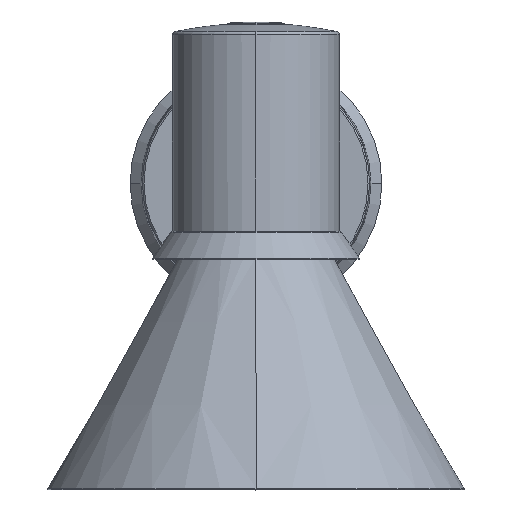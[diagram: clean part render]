
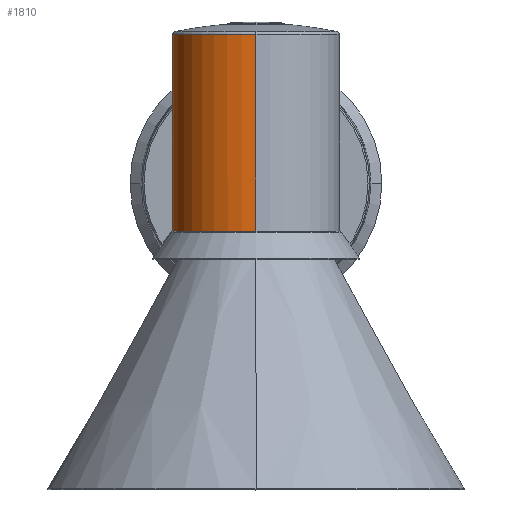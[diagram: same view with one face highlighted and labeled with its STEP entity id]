
A CAD part, top view. The second image highlights one B-rep face of the part: STEP entity #1810.
In plain terms, the highlighted cylindrical face has radius 29 mm (diameter 58 mm), a partial arc.
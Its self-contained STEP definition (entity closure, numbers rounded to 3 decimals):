
#9 = ORIENTED_EDGE ( 'NONE', *, *, #6592, .T. ) ;
#71 = EDGE_CURVE ( 'NONE', #1885, #641, #5169, .T. ) ;
#423 = CARTESIAN_POINT ( 'NONE',  ( 0., 55.3, 193.1 ) ) ;
#479 = EDGE_CURVE ( 'NONE', #8426, #1885, #6472, .T. ) ;
#549 = CARTESIAN_POINT ( 'NONE',  ( -2.544, 17.15, 164.184 ) ) ;
#641 = VERTEX_POINT ( 'NONE', #3812 ) ;
#846 = CARTESIAN_POINT ( 'NONE',  ( -3.8, 17.15, 164.35 ) ) ;
#1092 = CARTESIAN_POINT ( 'NONE',  ( 0., 51.332, 193.1 ) ) ;
#1135 = LINE ( 'NONE', #3449, #2454 ) ;
#1184 = CARTESIAN_POINT ( 'NONE',  ( -1.272, 17.15, 164.1 ) ) ;
#1316 = B_SPLINE_CURVE_WITH_KNOTS ( 'NONE', 3,
 ( #3934, #549, #1184, #7600 ),
 .UNSPECIFIED., .F., .F.,
 ( 4, 4 ),
 ( 0., 0.5 ),
 .UNSPECIFIED. ) ;
#1413 = CARTESIAN_POINT ( 'NONE',  ( -10.15, -17., 165.934 ) ) ;
#1439 = AXIS2_PLACEMENT_3D ( 'NONE', #8277, #8886, #1831 ) ;
#1539 = CARTESIAN_POINT ( 'NONE',  ( -5.792, 17.15, 164.613 ) ) ;
#1621 = ORIENTED_EDGE ( 'NONE', *, *, #3433, .T. ) ;
#1727 = CARTESIAN_POINT ( 'NONE',  ( -7.756, 17.15, 165.084 ) ) ;
#1733 = CARTESIAN_POINT ( 'NONE',  ( -10.15, 16.65, 165.934 ) ) ;
#1748 = DIRECTION ( 'NONE',  ( 0., -1., 0. ) ) ;
#1810 = ADVANCED_FACE ( 'NONE', ( #8705 ), #5247, .T. ) ;
#1825 =( BOUNDED_CURVE ( )  B_SPLINE_CURVE ( 3, ( #6911, #2824, #3464, #9148 ),
 .UNSPECIFIED., .F., .F. ) 
 B_SPLINE_CURVE_WITH_KNOTS ( ( 4, 4 ),
 ( 1.91, 1.928 ),
 .UNSPECIFIED. ) 
 CURVE ( )  GEOMETRIC_REPRESENTATION_ITEM ( )  RATIONAL_B_SPLINE_CURVE ( ( 1., 1., 1., 1. ) ) 
 REPRESENTATION_ITEM ( '' )  );
#1831 = DIRECTION ( 'NONE',  ( 0., 0., -1. ) ) ;
#1885 = VERTEX_POINT ( 'NONE', #1413 ) ;
#2054 = EDGE_CURVE ( 'NONE', #2499, #6197, #3568, .T. ) ;
#2454 = VECTOR ( 'NONE', #6327, 1000. ) ;
#2499 = VERTEX_POINT ( 'NONE', #4657 ) ;
#2824 = CARTESIAN_POINT ( 'NONE',  ( -9.817, 16.983, 165.812 ) ) ;
#3433 = EDGE_CURVE ( 'NONE', #5382, #4263, #7924, .T. ) ;
#3449 = CARTESIAN_POINT ( 'NONE',  ( 0., 55.3, 164.1 ) ) ;
#3464 = CARTESIAN_POINT ( 'NONE',  ( -9.984, 16.816, 165.872 ) ) ;
#3568 = CIRCLE ( 'NONE', #7529, 29. ) ;
#3611 = ORIENTED_EDGE ( 'NONE', *, *, #6005, .F. ) ;
#3767 = CARTESIAN_POINT ( 'NONE',  ( 0., 51.332, 164.1 ) ) ;
#3779 = DIRECTION ( 'NONE',  ( 0., 0., 1. ) ) ;
#3812 = CARTESIAN_POINT ( 'NONE',  ( 0., -17., 222.1 ) ) ;
#3934 = CARTESIAN_POINT ( 'NONE',  ( -3.8, 17.15, 164.35 ) ) ;
#4215 = ORIENTED_EDGE ( 'NONE', *, *, #71, .T. ) ;
#4263 = VERTEX_POINT ( 'NONE', #5303 ) ;
#4419 = ORIENTED_EDGE ( 'NONE', *, *, #2054, .T. ) ;
#4657 = CARTESIAN_POINT ( 'NONE',  ( 0., 51.332, 222.1 ) ) ;
#4793 = EDGE_CURVE ( 'NONE', #8991, #6197, #1135, .T. ) ;
#4886 = EDGE_CURVE ( 'NONE', #641, #2499, #8122, .T. ) ;
#4954 = ORIENTED_EDGE ( 'NONE', *, *, #479, .T. ) ;
#4961 = ORIENTED_EDGE ( 'NONE', *, *, #4793, .F. ) ;
#5169 = CIRCLE ( 'NONE', #1439, 29. ) ;
#5205 = CARTESIAN_POINT ( 'NONE',  ( -9.65, 17.15, 165.753 ) ) ;
#5247 = CYLINDRICAL_SURFACE ( 'NONE', #7036, 29. ) ;
#5303 = CARTESIAN_POINT ( 'NONE',  ( -9.65, 17.15, 165.753 ) ) ;
#5382 = VERTEX_POINT ( 'NONE', #7656 ) ;
#5671 = CARTESIAN_POINT ( 'NONE',  ( 0., 55.3, 222.1 ) ) ;
#5700 = DIRECTION ( 'NONE',  ( 0., 1., 0. ) ) ;
#6005 = EDGE_CURVE ( 'NONE', #5382, #8991, #1316, .T. ) ;
#6197 = VERTEX_POINT ( 'NONE', #3767 ) ;
#6327 = DIRECTION ( 'NONE',  ( 0., 1., 0. ) ) ;
#6472 = LINE ( 'NONE', #6509, #7839 ) ;
#6509 = CARTESIAN_POINT ( 'NONE',  ( -10.15, 55.3, 165.934 ) ) ;
#6592 = EDGE_CURVE ( 'NONE', #4263, #8426, #1825, .T. ) ;
#6911 = CARTESIAN_POINT ( 'NONE',  ( -9.65, 17.15, 165.753 ) ) ;
#7036 = AXIS2_PLACEMENT_3D ( 'NONE', #423, #8202, #8877 ) ;
#7117 = EDGE_LOOP ( 'NONE', ( #4215, #7697, #4419, #4961, #3611, #1621, #9, #4954 ) ) ;
#7529 = AXIS2_PLACEMENT_3D ( 'NONE', #1092, #1748, #3779 ) ;
#7600 = CARTESIAN_POINT ( 'NONE',  ( 0., 17.15, 164.1 ) ) ;
#7656 = CARTESIAN_POINT ( 'NONE',  ( -3.8, 17.15, 164.35 ) ) ;
#7697 = ORIENTED_EDGE ( 'NONE', *, *, #4886, .T. ) ;
#7839 = VECTOR ( 'NONE', #8682, 1000. ) ;
#7924 = B_SPLINE_CURVE_WITH_KNOTS ( 'NONE', 3,
 ( #846, #1539, #1727, #5205 ),
 .UNSPECIFIED., .F., .F.,
 ( 4, 4 ),
 ( 0.694, 1. ),
 .UNSPECIFIED. ) ;
#8122 = LINE ( 'NONE', #5671, #8245 ) ;
#8202 = DIRECTION ( 'NONE',  ( 0., 1., 0. ) ) ;
#8245 = VECTOR ( 'NONE', #5700, 1000. ) ;
#8277 = CARTESIAN_POINT ( 'NONE',  ( 0., -17., 193.1 ) ) ;
#8419 = CARTESIAN_POINT ( 'NONE',  ( 0., 17.15, 164.1 ) ) ;
#8426 = VERTEX_POINT ( 'NONE', #1733 ) ;
#8682 = DIRECTION ( 'NONE',  ( 0., -1., 0. ) ) ;
#8705 = FACE_OUTER_BOUND ( 'NONE', #7117, .T. ) ;
#8877 = DIRECTION ( 'NONE',  ( 0., 0., -1. ) ) ;
#8886 = DIRECTION ( 'NONE',  ( 0., 1., 0. ) ) ;
#8991 = VERTEX_POINT ( 'NONE', #8419 ) ;
#9148 = CARTESIAN_POINT ( 'NONE',  ( -10.15, 16.65, 165.934 ) ) ;
